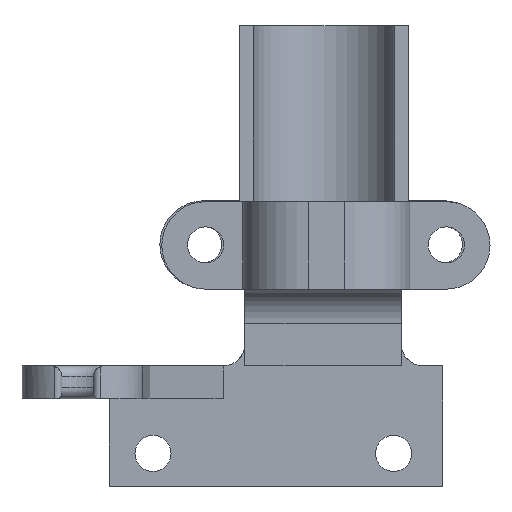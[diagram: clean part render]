
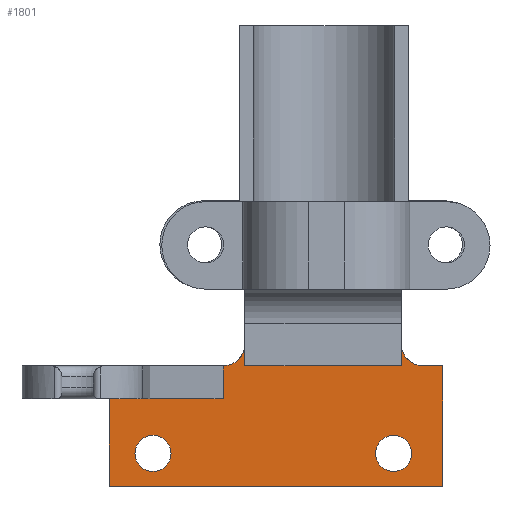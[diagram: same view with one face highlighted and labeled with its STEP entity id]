
A CAD part, front view. The second image highlights one B-rep face of the part: STEP entity #1801.
In plain terms, the highlighted planar face has unit normal (0, -1, 0).
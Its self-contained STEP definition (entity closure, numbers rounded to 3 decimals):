
#107=FACE_BOUND('',#244,.T.);
#108=FACE_BOUND('',#245,.T.);
#136=FACE_OUTER_BOUND('',#243,.T.);
#243=EDGE_LOOP('',(#1292,#1293,#1294,#1295,#1296,#1297,#1298,#1299,#1300,
#1301,#1302));
#244=EDGE_LOOP('',(#1303));
#245=EDGE_LOOP('',(#1304));
#356=CIRCLE('',#1954,2.);
#357=CIRCLE('',#1955,2.);
#358=CIRCLE('',#1956,1.65);
#359=CIRCLE('',#1957,1.65);
#438=LINE('',#2723,#609);
#439=LINE('',#2725,#610);
#440=LINE('',#2727,#611);
#441=LINE('',#2731,#612);
#442=LINE('',#2733,#613);
#443=LINE('',#2735,#614);
#444=LINE('',#2737,#615);
#445=LINE('',#2739,#616);
#446=LINE('',#2741,#617);
#609=VECTOR('',#2207,10.);
#610=VECTOR('',#2208,10.);
#611=VECTOR('',#2209,10.);
#612=VECTOR('',#2212,10.);
#613=VECTOR('',#2213,10.);
#614=VECTOR('',#2214,10.);
#615=VECTOR('',#2215,10.);
#616=VECTOR('',#2216,10.);
#617=VECTOR('',#2217,10.);
#784=VERTEX_POINT('',#2721);
#785=VERTEX_POINT('',#2722);
#786=VERTEX_POINT('',#2724);
#787=VERTEX_POINT('',#2726);
#788=VERTEX_POINT('',#2728);
#789=VERTEX_POINT('',#2730);
#790=VERTEX_POINT('',#2732);
#791=VERTEX_POINT('',#2734);
#792=VERTEX_POINT('',#2736);
#793=VERTEX_POINT('',#2738);
#794=VERTEX_POINT('',#2740);
#795=VERTEX_POINT('',#2743);
#796=VERTEX_POINT('',#2745);
#974=EDGE_CURVE('',#784,#785,#438,.T.);
#975=EDGE_CURVE('',#784,#786,#439,.T.);
#976=EDGE_CURVE('',#787,#786,#440,.T.);
#977=EDGE_CURVE('',#787,#788,#356,.F.);
#978=EDGE_CURVE('',#788,#789,#441,.T.);
#979=EDGE_CURVE('',#789,#790,#442,.T.);
#980=EDGE_CURVE('',#790,#791,#443,.T.);
#981=EDGE_CURVE('',#792,#791,#444,.T.);
#982=EDGE_CURVE('',#793,#792,#445,.T.);
#983=EDGE_CURVE('',#794,#793,#446,.T.);
#984=EDGE_CURVE('',#785,#794,#357,.T.);
#985=EDGE_CURVE('',#795,#795,#358,.T.);
#986=EDGE_CURVE('',#796,#796,#359,.T.);
#1292=ORIENTED_EDGE('',*,*,#974,.F.);
#1293=ORIENTED_EDGE('',*,*,#975,.T.);
#1294=ORIENTED_EDGE('',*,*,#976,.F.);
#1295=ORIENTED_EDGE('',*,*,#977,.T.);
#1296=ORIENTED_EDGE('',*,*,#978,.T.);
#1297=ORIENTED_EDGE('',*,*,#979,.T.);
#1298=ORIENTED_EDGE('',*,*,#980,.T.);
#1299=ORIENTED_EDGE('',*,*,#981,.F.);
#1300=ORIENTED_EDGE('',*,*,#982,.F.);
#1301=ORIENTED_EDGE('',*,*,#983,.F.);
#1302=ORIENTED_EDGE('',*,*,#984,.F.);
#1303=ORIENTED_EDGE('',*,*,#985,.F.);
#1304=ORIENTED_EDGE('',*,*,#986,.F.);
#1737=PLANE('',#1953);
#1801=ADVANCED_FACE('',(#136,#107,#108),#1737,.F.);
#1953=AXIS2_PLACEMENT_3D('',#2720,#2205,#2206);
#1954=AXIS2_PLACEMENT_3D('',#2729,#2210,#2211);
#1955=AXIS2_PLACEMENT_3D('',#2742,#2218,#2219);
#1956=AXIS2_PLACEMENT_3D('',#2744,#2220,#2221);
#1957=AXIS2_PLACEMENT_3D('',#2746,#2222,#2223);
#2205=DIRECTION('center_axis',(0.,1.,0.));
#2206=DIRECTION('ref_axis',(1.,0.,0.));
#2207=DIRECTION('',(0.,0.,-1.));
#2208=DIRECTION('',(1.,0.,0.));
#2209=DIRECTION('',(0.,0.,1.));
#2210=DIRECTION('center_axis',(0.,-1.,0.));
#2211=DIRECTION('ref_axis',(-0.707,0.,0.707));
#2212=DIRECTION('',(0.,0.,1.));
#2213=DIRECTION('',(1.,0.,0.));
#2214=DIRECTION('',(0.,0.,1.));
#2215=DIRECTION('',(1.,0.,0.));
#2216=DIRECTION('',(0.,0.,1.));
#2217=DIRECTION('',(-1.,0.,0.));
#2218=DIRECTION('center_axis',(0.,-1.,0.));
#2219=DIRECTION('ref_axis',(0.707,0.,0.707));
#2220=DIRECTION('center_axis',(0.,-1.,0.));
#2221=DIRECTION('ref_axis',(-1.,0.,0.));
#2222=DIRECTION('center_axis',(0.,-1.,0.));
#2223=DIRECTION('ref_axis',(-1.,0.,0.));
#2720=CARTESIAN_POINT('Origin',(2.,0.,
8.));
#2721=CARTESIAN_POINT('',(0.308,0.,5.));
#2722=CARTESIAN_POINT('',(0.308,0.,3.));
#2723=CARTESIAN_POINT('',(0.308,0.,-7.567));
#2724=CARTESIAN_POINT('',(14.596,0.,5.));
#2725=CARTESIAN_POINT('',(7.495,0.,5.));
#2726=CARTESIAN_POINT('',(14.596,0.,3.));
#2727=CARTESIAN_POINT('',(14.596,0.,-3.567));
#2728=CARTESIAN_POINT('',(16.596,0.,5.));
#2729=CARTESIAN_POINT('Origin',(16.596,0.,
3.));
#2730=CARTESIAN_POINT('',(16.596,0.,8.));
#2731=CARTESIAN_POINT('',(16.596,0.,6.5));
#2732=CARTESIAN_POINT('',(27.,0.,8.));
#2733=CARTESIAN_POINT('',(10.236,0.,8.));
#2734=CARTESIAN_POINT('',(27.,0.,16.));
#2735=CARTESIAN_POINT('',(27.,0.,1.475));
#2736=CARTESIAN_POINT('',(-3.492,0.,16.));
#2737=CARTESIAN_POINT('',(-3.,0.,16.));
#2738=CARTESIAN_POINT('',(-3.492,0.,5.));
#2739=CARTESIAN_POINT('',(-3.492,0.,8.));
#2740=CARTESIAN_POINT('',(-1.692,0.,5.));
#2741=CARTESIAN_POINT('',(7.495,0.,5.));
#2742=CARTESIAN_POINT('Origin',(-1.692,0.,
3.));
#2743=CARTESIAN_POINT('',(2.65,0.,13.));
#2744=CARTESIAN_POINT('Origin',(1.,0.,13.));
#2745=CARTESIAN_POINT('',(24.65,0.,13.));
#2746=CARTESIAN_POINT('Origin',(23.,0.,13.));
